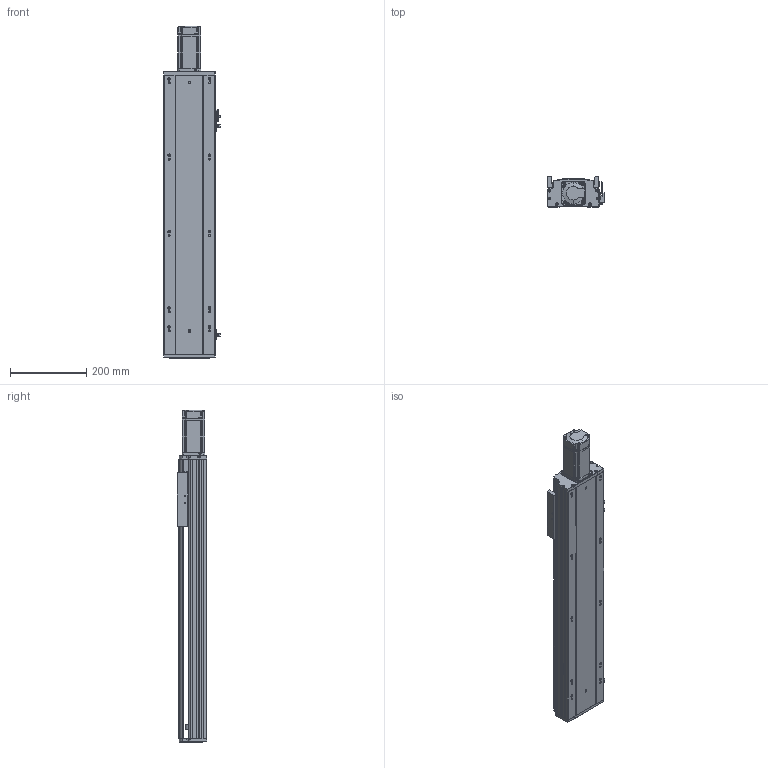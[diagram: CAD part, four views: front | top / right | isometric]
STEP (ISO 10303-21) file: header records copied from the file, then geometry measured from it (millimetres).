
FILE_DESCRIPTION (( 'STEP AP203' ), '1' );
FILE_NAME ('RY140Q-L2010-700-MK.SLDASM_0500.step', '2021-05-27T03:21:52', ( '盈信电脑' ), ( '东莞市道滘镇水果街19号' ), 'SwSTEP 2.0', 'SolidWorks 2016', '' );
FILE_SCHEMA (( 'CONFIG_CONTROL_DESIGN' ));
Length unit declared in the file: millimetre
Products named in the file (14): 覜茼ん672; RY140Q-700-MK倰第菁釱_0500; 滅袉蝶18-15; 滅袉蝶18-10; 侂狟400W侜督萇儂; RY140ヶ裔啣; RY140Q萇儂傷盓傅釱FK12(80.5酗M5); RY140Q-L2010-700-MK.SLDASM_0500; RY140Q-700-MK倰第奻裔啣_0500; RY140Q臏賑輸(20佪裝-J); 15; RY140綴裔啣; 鞠褒坶踡蹟譫BK12 ; RY120外置感应片(140共用）
Assembly tree (16 placements, depth 3):
  RY140Q-L2010-700-MK.SLDASM_0500
    RY140Q-700-MK倰第菁釱_0500
    RY140Q臏賑輸(20佪裝-J)
    RY140Q-700-MK倰第奻裔啣_0500
    RY140ヶ裔啣
    侂狟400W侜督萇儂
      15
    鞠褒坶踡蹟譫BK12 
    RY140綴裔啣
    覜茼ん672  x3
    RY120外置感应片(140共用）
    RY140Q萇儂傷盓傅釱FK12(80.5酗M5)
    滅袉蝶18-10
    滅袉蝶18-15  x2
Bounding box: 148.7 x 78 x 869.5 mm (x, y, z)
Volume: 2647506.5 mm3; surface area: 918175.3 mm2
Topology: 15 solids, 15 shells, 2041 faces, 5624 edges, 3611 vertices
Faces by surface type: plane 1082, cylinder 694, cone 180, bspline 85
Entity records: 67491 total; most frequent: CARTESIAN_POINT 16220, ORIENTED_EDGE 10580, DIRECTION 10036, EDGE_CURVE 5290, VERTEX_POINT 3471, LINE 3436, VECTOR 3436, AXIS2_PLACEMENT_3D 3300
